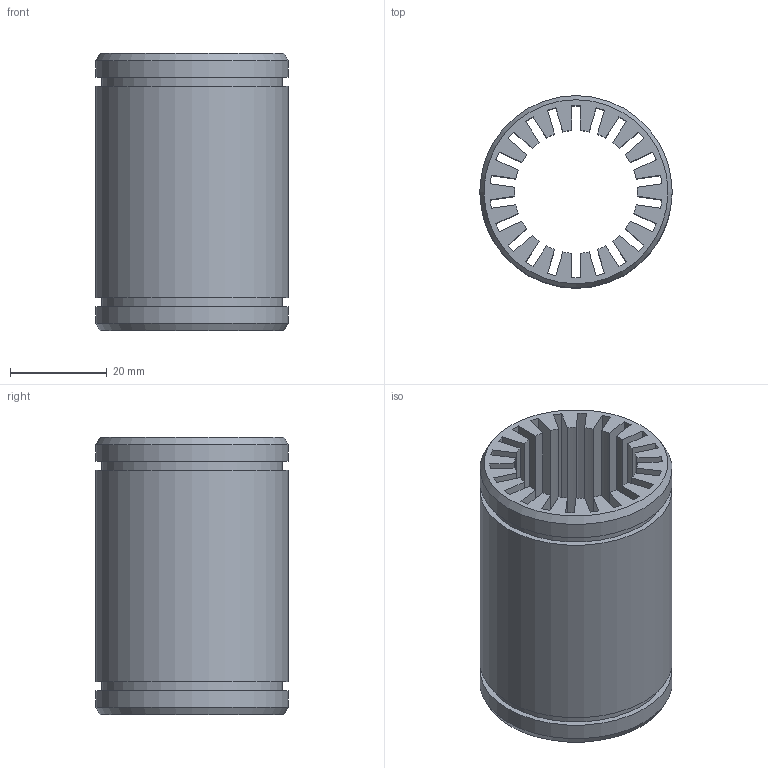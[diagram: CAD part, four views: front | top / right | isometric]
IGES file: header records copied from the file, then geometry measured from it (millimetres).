
Global section: file name: No Iges File Name specified; native system: AutoDesk Inventor R6.0; preprocessor: AutoDesk Inventor Iges Exporter R6.0; author: No Author specified; organization: No Organization specified; date: 20080120.160241; units: inch
Bounding box: 39.69 x 39.69 x 57.15 mm (x, y, z)
Surface area: 25971.4 mm2 (no closed solid volume)
Topology: 0 solids, 0 shells, 101 faces, 559 edges, 552 vertices
Faces by surface type: plane 70, revolution 28, bspline 3
